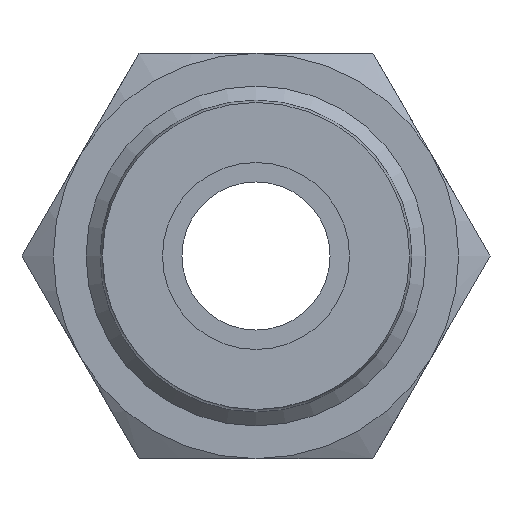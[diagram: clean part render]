
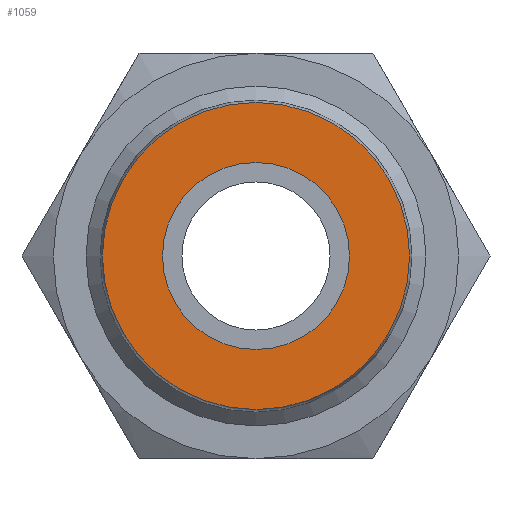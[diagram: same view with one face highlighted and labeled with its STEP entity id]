
A CAD part, front view. The second image highlights one B-rep face of the part: STEP entity #1059.
In plain terms, the highlighted planar face has unit normal (0, -1, 0).
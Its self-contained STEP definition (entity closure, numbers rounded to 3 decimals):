
#39=FACE_BOUND('',#256,.T.);
#119=PLANE('',#1213);
#181=FACE_OUTER_BOUND('',#255,.T.);
#255=EDGE_LOOP('',(#935,#936));
#256=EDGE_LOOP('',(#937,#938));
#333=CIRCLE('',#1211,9.85);
#334=CIRCLE('',#1212,9.85);
#335=CIRCLE('',#1214,6.);
#336=CIRCLE('',#1215,6.);
#485=VERTEX_POINT('',#1941);
#486=VERTEX_POINT('',#1942);
#487=VERTEX_POINT('',#1947);
#488=VERTEX_POINT('',#1948);
#638=EDGE_CURVE('',#485,#486,#333,.T.);
#639=EDGE_CURVE('',#486,#485,#334,.T.);
#641=EDGE_CURVE('',#487,#488,#335,.T.);
#642=EDGE_CURVE('',#488,#487,#336,.T.);
#935=ORIENTED_EDGE('',*,*,#638,.T.);
#936=ORIENTED_EDGE('',*,*,#639,.T.);
#937=ORIENTED_EDGE('',*,*,#641,.F.);
#938=ORIENTED_EDGE('',*,*,#642,.F.);
#1059=ADVANCED_FACE('',(#181,#39),#119,.T.);
#1211=AXIS2_PLACEMENT_3D('',#1943,#1508,#1509);
#1212=AXIS2_PLACEMENT_3D('',#1944,#1510,#1511);
#1213=AXIS2_PLACEMENT_3D('',#1946,#1513,#1514);
#1214=AXIS2_PLACEMENT_3D('',#1949,#1515,#1516);
#1215=AXIS2_PLACEMENT_3D('',#1950,#1517,#1518);
#1508=DIRECTION('center_axis',(0.,-1.,0.));
#1509=DIRECTION('ref_axis',(1.,0.,0.));
#1510=DIRECTION('center_axis',(0.,-1.,0.));
#1511=DIRECTION('ref_axis',(1.,0.,0.));
#1513=DIRECTION('center_axis',(0.,-1.,0.));
#1514=DIRECTION('ref_axis',(0.,0.,-1.));
#1515=DIRECTION('center_axis',(0.,-1.,0.));
#1516=DIRECTION('ref_axis',(1.,0.,0.));
#1517=DIRECTION('center_axis',(0.,-1.,0.));
#1518=DIRECTION('ref_axis',(1.,0.,0.));
#1941=CARTESIAN_POINT('',(9.85,0.,0.));
#1942=CARTESIAN_POINT('',(-9.85,0.,0.));
#1943=CARTESIAN_POINT('Origin',(0.,0.,0.));
#1944=CARTESIAN_POINT('Origin',(0.,0.,0.));
#1946=CARTESIAN_POINT('Origin',(6.,0.,0.));
#1947=CARTESIAN_POINT('',(6.,0.,0.));
#1948=CARTESIAN_POINT('',(-6.,0.,0.));
#1949=CARTESIAN_POINT('Origin',(0.,0.,0.));
#1950=CARTESIAN_POINT('Origin',(0.,0.,0.));
